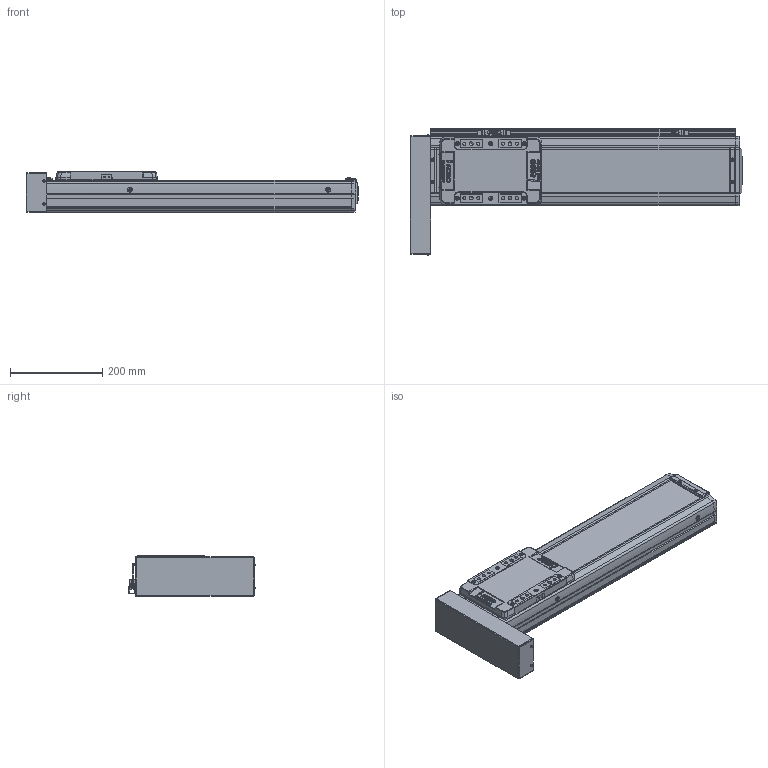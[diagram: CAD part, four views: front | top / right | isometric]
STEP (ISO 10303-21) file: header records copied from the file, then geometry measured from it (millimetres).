
FILE_DESCRIPTION(('STEP AP214'),'1');
FILE_NAME('Z:/Web/3D/SAN150/2013.04 (STP.)/SAN150ㅁㅁ-400PR+3SL.stp','2013-05-07T23:42:40',(' '),(' '),'Spatial InterOp 3D',' ',' ');
FILE_SCHEMA(('automotive_design'));
Length unit declared in the file: millimetre
Products named in the file (58): SLBL-SAN150; SLCV-SAN150; FHCS M4.0 x 8.0; BHCS M4.0 x 10.0; SFX-SAN150; RRCV-SAN150; FRBL-SAN150; Spacer; RN15; FRCV-SAN150; Screw 20; BASE-SAN150-000L ; SUS COVER; 스크루 : Round - M5.0 x 6.0; BHCS M3.0 x 6.0; P; M3.0 x 6.0; SRL-16x17-360L; SGD-SAN150; EE-SX674; SBK-SX674-352; 스크루 : Round - M3.0 x 6.0
Bounding box: 720 x 273.36 x 90 mm (x, y, z)
Volume: 5129797.3 mm3; surface area: 936227.4 mm2
Topology: 58 solids, 58 shells, 2612 faces, 6714 edges, 4315 vertices
Faces by surface type: plane 1390, cylinder 843, cone 266, sphere 80, bspline 21, torus 12
Entity records: 103182 total; most frequent: CARTESIAN_POINT 16201, DIRECTION 14204, ORIENTED_EDGE 13204, EDGE_CURVE 6602, AXIS2_PLACEMENT_3D 5033, VERTEX_POINT 4315, LINE 4138, VECTOR 4138
